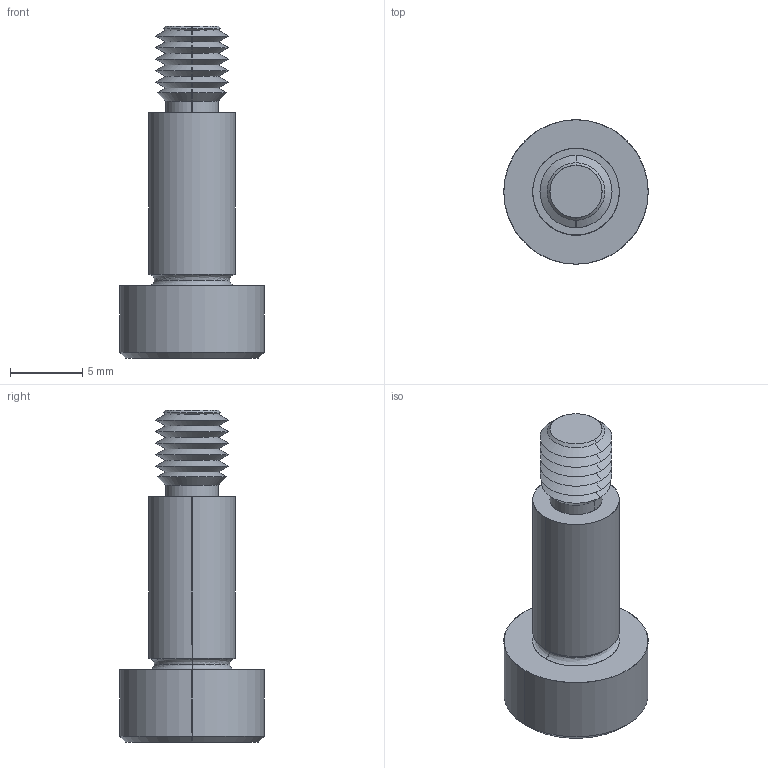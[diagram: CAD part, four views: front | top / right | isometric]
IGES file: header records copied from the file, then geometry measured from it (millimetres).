
Start section: SolidWorks IGES file using analytic representation for surfaces
Global section: file name: C:\Users\IanO\Documents\Temp Folder\GENERAL\SCREW REVISION\P0130_v2\P0130.T5_v2_20220106_IGES\P0130.060-012-T5.igs; native system: SolidWorks 2019; preprocessor: SolidWorks 2019; author: IanO; date: 220106.222257; units: millimetre
Bounding box: 10 x 10 x 23 mm (x, y, z)
Surface area: 713.8 mm2 (no closed solid volume)
Topology: 0 solids, 0 shells, 64 faces, 504 edges, 502 vertices
Faces by surface type: revolution 44, bspline 20
